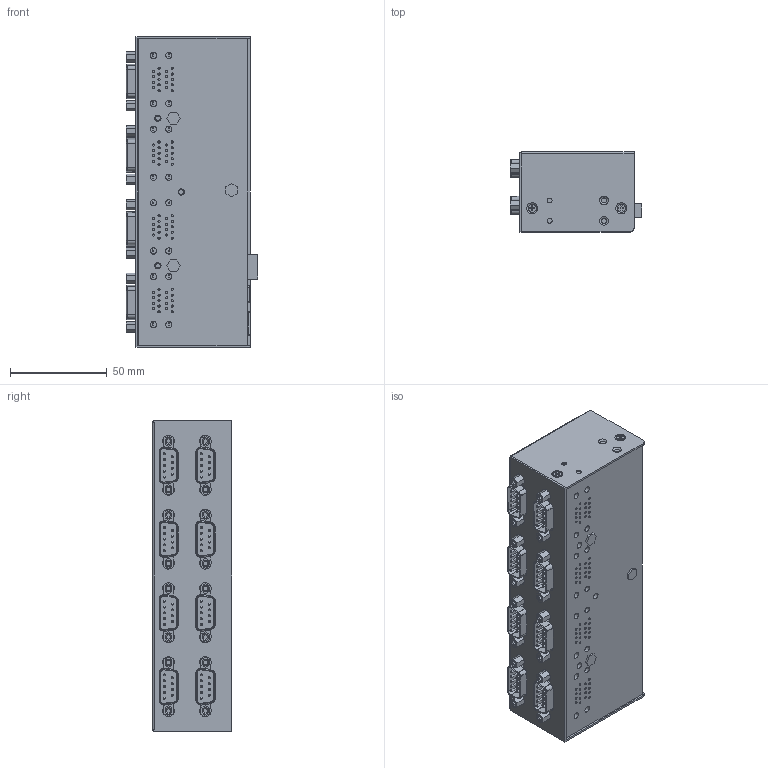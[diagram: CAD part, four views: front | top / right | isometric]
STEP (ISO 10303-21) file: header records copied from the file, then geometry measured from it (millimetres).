
FILE_DESCRIPTION(/* description */ (''),/* implementation_level */ '2;1');
FILE_NAME(/* name */ 'C:/Users/Leo/Desktop/GM-FTDI8X-M v3.step',/* time_stamp */ '2021-03-26T15:18:32-04:00',/* author */ (''),/* organization */ (''),/* preprocessor_version */ 'ST-DEVELOPER v18.1',/* originating_system */ 'Autodesk Translation Framework v9.10.0.1330',/* authorisation */ '');
FILE_SCHEMA (('AUTOMOTIVE_DESIGN { 1 0 10303 214 3 1 1 }'));
Products named in the file (4): GM-FTDI8X-M; FM3X3_8CCRO_1_1_1_2; Component57; Component58
Assembly tree (3 placements, depth 2):
  GM-FTDI8X-M
    FM3X3_8CCRO_1_1_1_2
    Component57
    Component58
Bounding box: 67.85 x 41.02 x 160 mm (x, y, z)
Volume: 344527.5 mm3; surface area: 83196 mm2
Topology: 1 solids, 11 shells, 1713 faces, 4323 edges, 2839 vertices
Faces by surface type: plane 973, cylinder 471, torus 104, sphere 98, cone 67
Full cylindrical faces by diameter (mm): 1 x72, 1.1 x72, 2.36 x16, 2.5 x7, 2.6 x3, 2.8 x16, 3 x17, 3.1 x17, 3.2 x43, 4.2 x4, 6.3 x1
Entity records: 55625 total; most frequent: CARTESIAN_POINT 13319, DIRECTION 9033, ORIENTED_EDGE 8450, EDGE_CURVE 4225, AXIS2_PLACEMENT_3D 3267, VERTEX_POINT 2839, LINE 2499, VECTOR 2499
